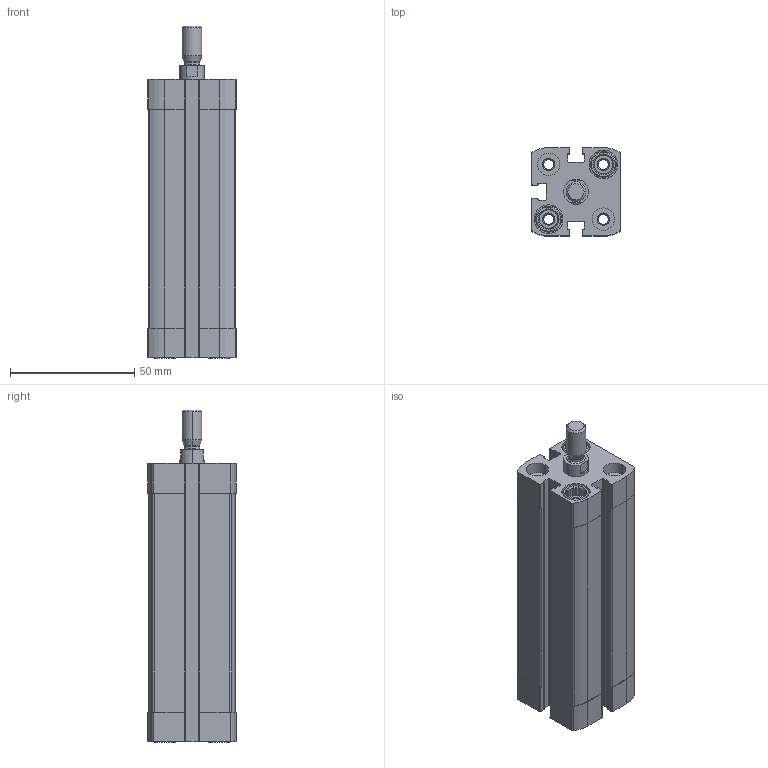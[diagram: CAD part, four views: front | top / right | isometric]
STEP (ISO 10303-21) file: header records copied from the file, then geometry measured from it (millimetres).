
FILE_DESCRIPTION (( 'STEP AP203' ), '1' );
FILE_NAME ('CCN20-75M.STEP', '2017-03-28T16:59:21', ( '' ), ( '' ), 'SwSTEP 2.0', 'SolidWorks 2016', '' );
FILE_SCHEMA (( 'CONFIG_CONTROL_DESIGN' ));
Length unit declared in the file: millimetre
Products named in the file (3): CCN-75---(Z); CCN-75-_(KS); CCN20-75M
Assembly tree (2 placements, depth 2):
  CCN20-75M
    CCN-75---(Z)
    CCN-75-_(KS)
Bounding box: 35.5 x 35.5 x 133.5 mm (x, y, z)
Volume: 97497.3 mm3; surface area: 41531 mm2
Topology: 2 solids, 2 shells, 409 faces, 1080 edges, 706 vertices
Faces by surface type: plane 231, cylinder 134, cone 40, bspline 4
Entity records: 13193 total; most frequent: CARTESIAN_POINT 2560, DIRECTION 2214, ORIENTED_EDGE 2160, EDGE_CURVE 1080, AXIS2_PLACEMENT_3D 824, VERTEX_POINT 706, VECTOR 566, LINE 566
